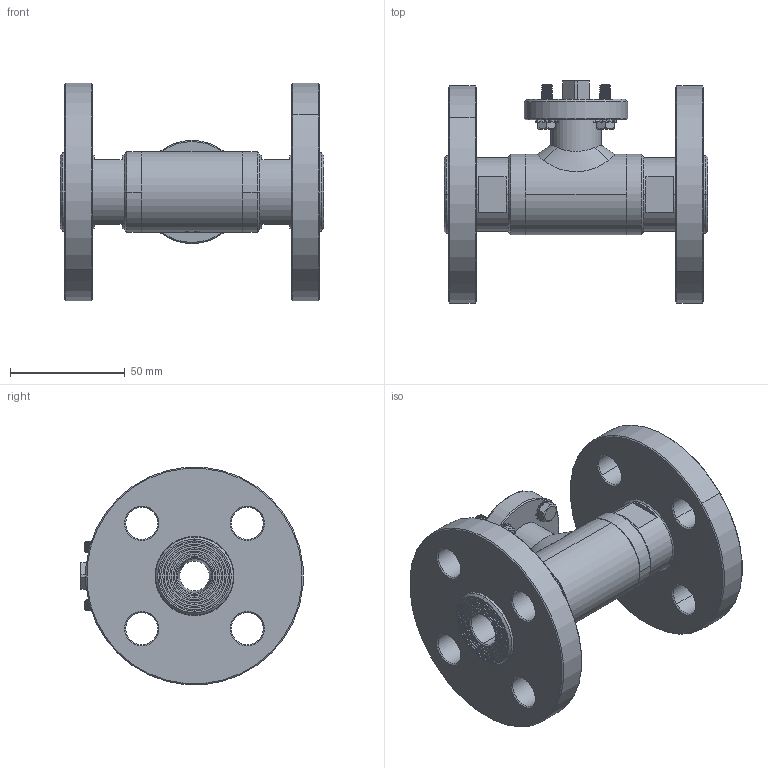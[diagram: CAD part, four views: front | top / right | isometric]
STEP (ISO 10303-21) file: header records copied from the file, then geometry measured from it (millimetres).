
FILE_DESCRIPTION((''),'2;1');
FILE_NAME('10305061410','2015-09-21T',('uff_tec'),('CDM Tecnoconsulting'),'PRO/ENGINEER BY PARAMETRIC TECHNOLOGY CORPORATION, 2010280','PRO/ENGINEER BY PARAMETRIC TECHNOLOGY CORPORATION, 2010280','');
FILE_SCHEMA(('CONFIG_CONTROL_DESIGN','SHAPE_APPEARANCE_LAYERS_GROUPS'));
Products named in the file (1): 10305061410
Bounding box: 115 x 96.82 x 94.64 mm (x, y, z)
Surface area: 64558.3 mm2 (no closed solid volume)
Topology: 0 solids, 35 shells, 991 faces, 3170 edges, 2159 vertices
Faces by surface type: plane 330, cylinder 304, cone 208, torus 74, bspline 66, extrusion 9
Entity records: 59770 total; most frequent: CARTESIAN_POINT 33774, ORIENTED_EDGE 5476, DIRECTION 4782, EDGE_CURVE 3168, VERTEX_POINT 2159, AXIS2_PLACEMENT_3D 1849, B_SPLINE_CURVE_WITH_KNOTS 1169, VECTOR 1084
